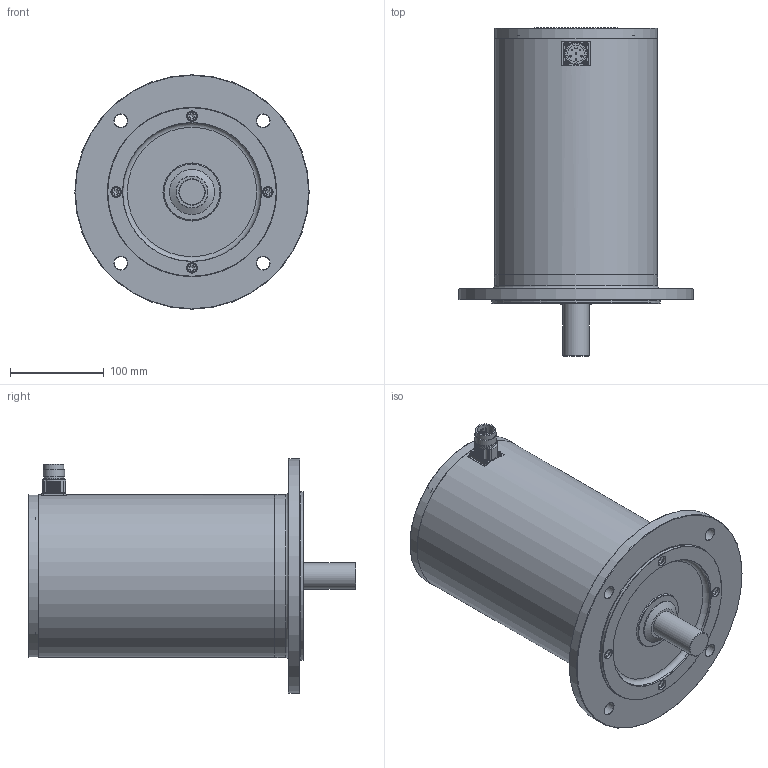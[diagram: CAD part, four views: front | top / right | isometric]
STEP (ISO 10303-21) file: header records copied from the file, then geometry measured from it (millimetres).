
FILE_DESCRIPTION(/* description */ (''),/* implementation_level */ '2;1');
FILE_NAME(/* name */ 'ksa_8x12e',/* time_stamp */ '2007-03-14T10:02:21+01:00',/* author */ (''),/* organization */ (''),/* preprocessor_version */ 'ST-DEVELOPER v8',/* originating_system */ 'UNIGRAPHICS SOLUTIONS - UNIGRAPHICS 18.0',/* authorisation */ '');
FILE_SCHEMA (('AUTOMOTIVE_DESIGN { 1 2 10303 214 0 1 1 1 }'));
Length unit declared in the file: millimetre
Products named in the file (11): iso1580-m2.5x6_A; din912-m6x12_A; din912-m6x30_A; 06331401_0; DIN3760_org_A30x42x7_0; 014260_0; 118026_0; Rotor_SA 84.. E_0; 118025_0; Gehaeuse SA 84.. E_0; KSA8412_E_0
Assembly tree (19 placements, depth 2):
  KSA8412_E_0
    Gehaeuse SA 84.. E_0
    118025_0
    Rotor_SA 84.. E_0
    118026_0
    014260_0
    DIN3760_org_A30x42x7_0
    06331401_0
    din912-m6x30_A  x4
    din912-m6x12_A  x4
    iso1580-m2.5x6_A  x4
Bounding box: 250 x 350 x 250 mm (x, y, z)
Volume: 2642483.9 mm3; surface area: 501785.2 mm2
Topology: 19 solids, 19 shells, 486 faces, 1106 edges, 690 vertices
Faces by surface type: plane 212, cylinder 156, cone 76, torus 34, sphere 8
Full cylindrical faces by diameter (mm): 1 x4, 1.948 x4, 2 x4, 2.5 x4, 2.7 x4, 5 x8, 6 x8, 6.4 x8, 10 x8, 11 x8, 14 x4, 18 x1, 20 x2, 21 x1, 21.5 x1, 23 x2, 27.52 x1, 27.9 x1, 28 x1, 30 x2, 30.3 x1, 38 x1, 39 x1, 42 x2, 44 x1, 48 x1, 52 x1, 56 x1, 60 x1, 62 x1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
Entity records: 8307 total; most frequent: DIRECTION 1552, CARTESIAN_POINT 1350, ORIENTED_EDGE 1026, AXIS2_PLACEMENT_3D 706, EDGE_LOOP 552, EDGE_CURVE 513, VERTEX_POINT 409, CIRCLE 368
